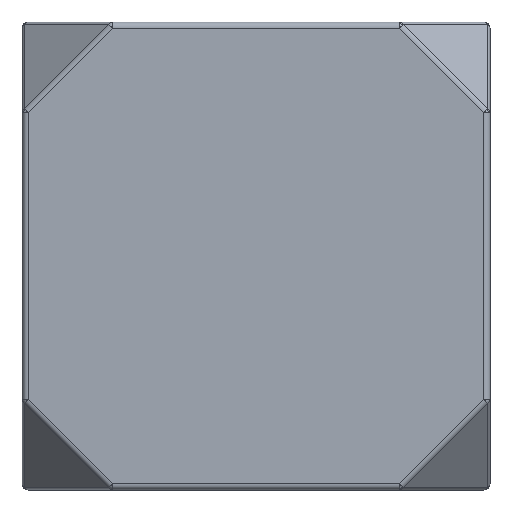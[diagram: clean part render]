
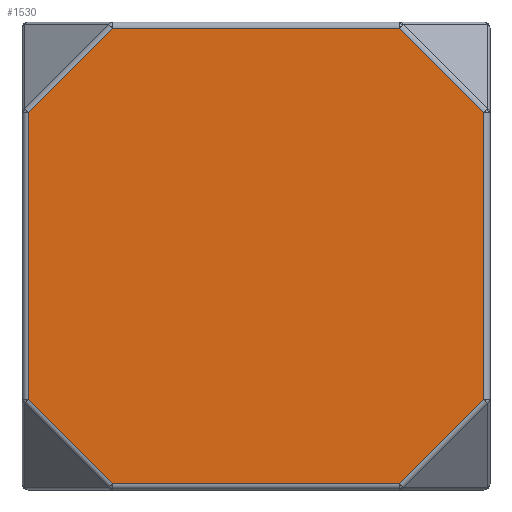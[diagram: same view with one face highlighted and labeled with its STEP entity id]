
A CAD part, left-side view. The second image highlights one B-rep face of the part: STEP entity #1530.
In plain terms, the highlighted planar face has unit normal (-1, 0, 0).
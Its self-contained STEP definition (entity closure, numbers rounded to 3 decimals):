
#71 = EDGE_CURVE ( 'NONE', #705, #2450, #2789, .T. ) ;
#81 = EDGE_LOOP ( 'NONE', ( #2722, #2346, #1117, #2008, #1335, #2175, #639, #611 ) ) ;
#164 = LINE ( 'NONE', #2694, #1815 ) ;
#179 = DIRECTION ( 'NONE',  ( 0., 1., 0. ) ) ;
#185 = CARTESIAN_POINT ( 'NONE',  ( -38.1, 23.368, -37.1 ) ) ;
#211 = CARTESIAN_POINT ( 'NONE',  ( -38.1, 37.1, 23.368 ) ) ;
#248 = CARTESIAN_POINT ( 'NONE',  ( -38.1, 38.1, 37.1 ) ) ;
#413 = CARTESIAN_POINT ( 'NONE',  ( -38.1, 38.1, -37.1 ) ) ;
#417 = VECTOR ( 'NONE', #1958, 1000. ) ;
#473 = DIRECTION ( 'NONE',  ( 0., -1., 0. ) ) ;
#480 = EDGE_CURVE ( 'NONE', #2007, #2375, #2091, .T. ) ;
#596 = DIRECTION ( 'NONE',  ( 1., 0., 0. ) ) ;
#599 = CARTESIAN_POINT ( 'NONE',  ( -38.1, -23.368, 37.1 ) ) ;
#611 = ORIENTED_EDGE ( 'NONE', *, *, #1319, .F. ) ;
#639 = ORIENTED_EDGE ( 'NONE', *, *, #2200, .F. ) ;
#676 = CARTESIAN_POINT ( 'NONE',  ( -38.1, 23.368, -37.1 ) ) ;
#705 = VERTEX_POINT ( 'NONE', #2036 ) ;
#760 = DIRECTION ( 'NONE',  ( 0., 0., -1. ) ) ;
#772 = LINE ( 'NONE', #248, #2341 ) ;
#841 = VECTOR ( 'NONE', #2225, 1000. ) ;
#871 = DIRECTION ( 'NONE',  ( 0., -0.707, 0.707 ) ) ;
#1005 = LINE ( 'NONE', #599, #417 ) ;
#1117 = ORIENTED_EDGE ( 'NONE', *, *, #71, .F. ) ;
#1120 = LINE ( 'NONE', #2832, #2305 ) ;
#1153 = EDGE_CURVE ( 'NONE', #2375, #705, #164, .T. ) ;
#1199 = VERTEX_POINT ( 'NONE', #1378 ) ;
#1263 = CARTESIAN_POINT ( 'NONE',  ( -38.1, 38.1, 38.1 ) ) ;
#1319 = EDGE_CURVE ( 'NONE', #2077, #2260, #2110, .T. ) ;
#1335 = ORIENTED_EDGE ( 'NONE', *, *, #480, .F. ) ;
#1378 = CARTESIAN_POINT ( 'NONE',  ( -38.1, -23.368, -37.1 ) ) ;
#1380 = VECTOR ( 'NONE', #179, 1000. ) ;
#1449 = CARTESIAN_POINT ( 'NONE',  ( -38.1, 23.368, 37.1 ) ) ;
#1509 = DIRECTION ( 'NONE',  ( 0., 0.707, -0.707 ) ) ;
#1529 = VECTOR ( 'NONE', #760, 1000. ) ;
#1530 = ADVANCED_FACE ( 'NONE', ( #1702 ), #1932, .F. ) ;
#1584 = CARTESIAN_POINT ( 'NONE',  ( -38.1, -23.368, 37.1 ) ) ;
#1593 = DIRECTION ( 'NONE',  ( 0., 0., 1. ) ) ;
#1702 = FACE_OUTER_BOUND ( 'NONE', #81, .T. ) ;
#1723 = VERTEX_POINT ( 'NONE', #1584 ) ;
#1815 = VECTOR ( 'NONE', #1593, 1000. ) ;
#1932 = PLANE ( 'NONE',  #2743 ) ;
#1958 = DIRECTION ( 'NONE',  ( 0., -0.707, -0.707 ) ) ;
#2007 = VERTEX_POINT ( 'NONE', #185 ) ;
#2008 = ORIENTED_EDGE ( 'NONE', *, *, #1153, .F. ) ;
#2028 = EDGE_CURVE ( 'NONE', #1199, #2007, #2560, .T. ) ;
#2036 = CARTESIAN_POINT ( 'NONE',  ( -38.1, 37.1, 23.368 ) ) ;
#2077 = VERTEX_POINT ( 'NONE', #2760 ) ;
#2086 = CARTESIAN_POINT ( 'NONE',  ( -38.1, -37.1, 38.1 ) ) ;
#2091 = LINE ( 'NONE', #676, #841 ) ;
#2110 = LINE ( 'NONE', #2086, #1529 ) ;
#2148 = DIRECTION ( 'NONE',  ( 0., 0., -1. ) ) ;
#2175 = ORIENTED_EDGE ( 'NONE', *, *, #2028, .F. ) ;
#2200 = EDGE_CURVE ( 'NONE', #2260, #1199, #1120, .T. ) ;
#2205 = VECTOR ( 'NONE', #871, 1000. ) ;
#2225 = DIRECTION ( 'NONE',  ( 0., 0.707, 0.707 ) ) ;
#2260 = VERTEX_POINT ( 'NONE', #2644 ) ;
#2271 = CARTESIAN_POINT ( 'NONE',  ( -38.1, 37.1, -23.368 ) ) ;
#2305 = VECTOR ( 'NONE', #1509, 1000. ) ;
#2341 = VECTOR ( 'NONE', #473, 1000. ) ;
#2346 = ORIENTED_EDGE ( 'NONE', *, *, #2753, .F. ) ;
#2375 = VERTEX_POINT ( 'NONE', #2271 ) ;
#2450 = VERTEX_POINT ( 'NONE', #1449 ) ;
#2554 = EDGE_CURVE ( 'NONE', #1723, #2077, #1005, .T. ) ;
#2560 = LINE ( 'NONE', #413, #1380 ) ;
#2644 = CARTESIAN_POINT ( 'NONE',  ( -38.1, -37.1, -23.368 ) ) ;
#2694 = CARTESIAN_POINT ( 'NONE',  ( -38.1, 37.1, 38.1 ) ) ;
#2722 = ORIENTED_EDGE ( 'NONE', *, *, #2554, .F. ) ;
#2743 = AXIS2_PLACEMENT_3D ( 'NONE', #1263, #596, #2148 ) ;
#2753 = EDGE_CURVE ( 'NONE', #2450, #1723, #772, .T. ) ;
#2760 = CARTESIAN_POINT ( 'NONE',  ( -38.1, -37.1, 23.368 ) ) ;
#2789 = LINE ( 'NONE', #211, #2205 ) ;
#2832 = CARTESIAN_POINT ( 'NONE',  ( -38.1, -37.1, -23.368 ) ) ;
